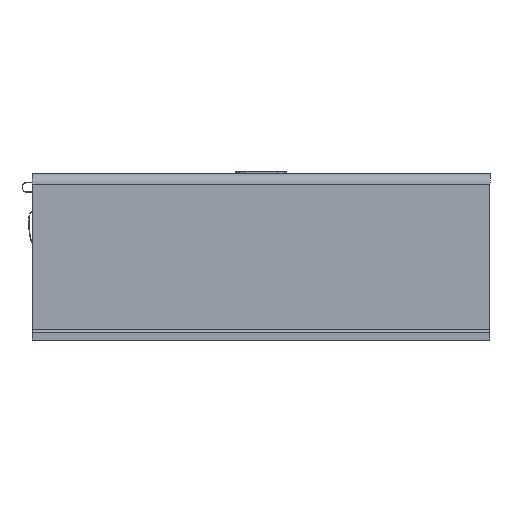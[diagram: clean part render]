
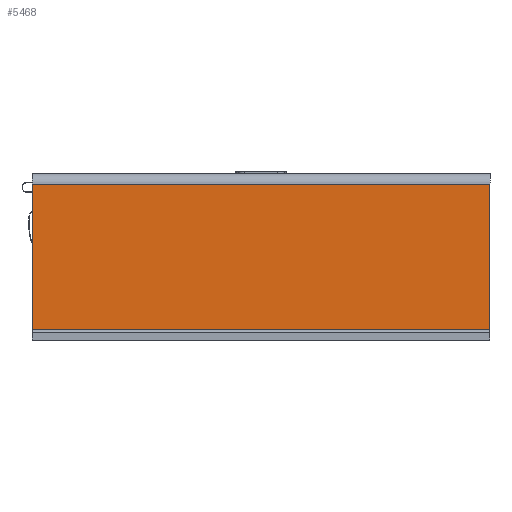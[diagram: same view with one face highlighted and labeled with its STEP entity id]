
A CAD part, front view. The second image highlights one B-rep face of the part: STEP entity #5468.
In plain terms, the highlighted planar face has unit normal (0, -1, 0).
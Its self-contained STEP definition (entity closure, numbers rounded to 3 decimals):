
#5401=CARTESIAN_POINT('',(139.7,16.688,45.263));
#5402=VERTEX_POINT('',#5401);
#5420=CARTESIAN_POINT('',(0.0,16.688,45.263));
#5421=VERTEX_POINT('',#5420);
#5429=CARTESIAN_POINT('',(0.0,16.688,45.263));
#5430=DIRECTION('',(1.0,0.0,0.0));
#5431=VECTOR('',#5430,139.7);
#5432=LINE('',#5429,#5431);
#5433=EDGE_CURVE('',#5421,#5402,#5432,.T.);
#5438=CARTESIAN_POINT('',(0.0,16.688,23.038));
#5439=DIRECTION('',(0.0,-1.0,0.0));
#5440=DIRECTION('',(0.0,0.0,-1.0));
#5441=AXIS2_PLACEMENT_3D('',#5438,#5439,#5440);
#5442=PLANE('',#5441);
#5443=ORIENTED_EDGE('',*,*,#5433,.F.);
#5444=CARTESIAN_POINT('',(0.0,16.688,0.813));
#5445=VERTEX_POINT('',#5444);
#5446=CARTESIAN_POINT('',(0.0,16.688,45.263));
#5447=DIRECTION('',(0.0,0.0,-1.0));
#5448=VECTOR('',#5447,44.45);
#5449=LINE('',#5446,#5448);
#5450=EDGE_CURVE('',#5421,#5445,#5449,.T.);
#5451=ORIENTED_EDGE('',*,*,#5450,.T.);
#5452=CARTESIAN_POINT('',(139.7,16.688,0.813));
#5453=VERTEX_POINT('',#5452);
#5454=CARTESIAN_POINT('',(139.7,16.688,0.813));
#5455=DIRECTION('',(-1.0,0.0,0.0));
#5456=VECTOR('',#5455,139.7);
#5457=LINE('',#5454,#5456);
#5458=EDGE_CURVE('',#5453,#5445,#5457,.T.);
#5459=ORIENTED_EDGE('',*,*,#5458,.F.);
#5460=CARTESIAN_POINT('',(139.7,16.688,45.263));
#5461=DIRECTION('',(0.0,0.0,-1.0));
#5462=VECTOR('',#5461,44.45);
#5463=LINE('',#5460,#5462);
#5464=EDGE_CURVE('',#5402,#5453,#5463,.T.);
#5465=ORIENTED_EDGE('',*,*,#5464,.F.);
#5466=EDGE_LOOP('',(#5443,#5451,#5459,#5465));
#5467=FACE_OUTER_BOUND('',#5466,.T.);
#5468=ADVANCED_FACE('',(#5467),#5442,.T.);
